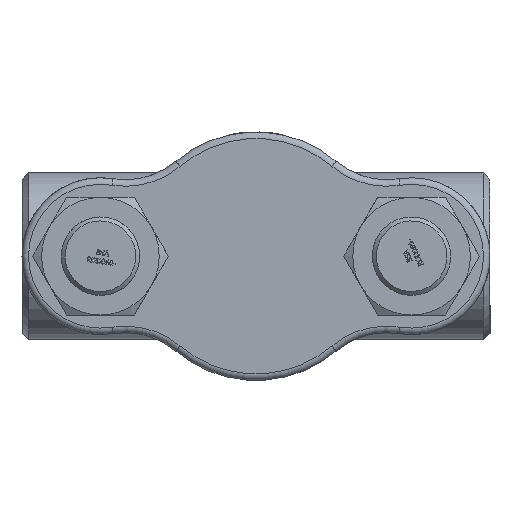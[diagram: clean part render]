
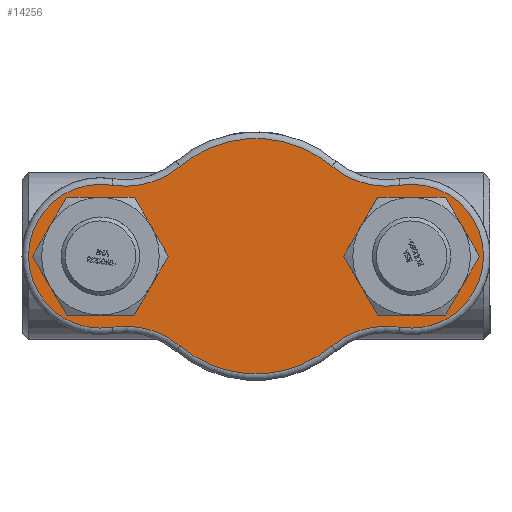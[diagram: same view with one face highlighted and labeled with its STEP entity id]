
A CAD part, front view. The second image highlights one B-rep face of the part: STEP entity #14256.
In plain terms, the highlighted planar face has unit normal (0, -1, 0) as drawn and (0, 0, -1) by its records, which use the part's own axes.
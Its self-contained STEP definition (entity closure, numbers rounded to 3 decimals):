
#3722=PLANE('',#15189);
#4073=FACE_BOUND('',#5016,.T.);
#4074=FACE_BOUND('',#5017,.T.);
#4171=FACE_OUTER_BOUND('',#5015,.T.);
#5015=EDGE_LOOP('',(#9811,#9812,#9813,#9814,#9815,#9816,#9817,#9818));
#5016=EDGE_LOOP('',(#9819));
#5017=EDGE_LOOP('',(#9820));
#5955=CIRCLE('',#15188,36.5);
#5956=CIRCLE('',#15190,55.);
#5957=CIRCLE('',#15191,65.);
#5958=CIRCLE('',#15192,90.);
#5959=CIRCLE('',#15193,65.);
#5960=CIRCLE('',#15194,55.);
#5961=CIRCLE('',#15195,65.);
#5962=CIRCLE('',#15196,90.);
#5963=CIRCLE('',#15197,65.);
#5964=CIRCLE('',#15198,36.5);
#6131=VERTEX_POINT('',#18322);
#6132=VERTEX_POINT('',#18325);
#6133=VERTEX_POINT('',#18326);
#6134=VERTEX_POINT('',#18328);
#6135=VERTEX_POINT('',#18330);
#6136=VERTEX_POINT('',#18332);
#6137=VERTEX_POINT('',#18334);
#6138=VERTEX_POINT('',#18336);
#6139=VERTEX_POINT('',#18338);
#6140=VERTEX_POINT('',#18341);
#7597=EDGE_CURVE('',#6131,#6131,#5955,.T.);
#7598=EDGE_CURVE('',#6132,#6133,#5956,.T.);
#7599=EDGE_CURVE('',#6134,#6132,#5957,.T.);
#7600=EDGE_CURVE('',#6135,#6134,#5958,.T.);
#7601=EDGE_CURVE('',#6136,#6135,#5959,.T.);
#7602=EDGE_CURVE('',#6137,#6136,#5960,.T.);
#7603=EDGE_CURVE('',#6138,#6137,#5961,.T.);
#7604=EDGE_CURVE('',#6139,#6138,#5962,.T.);
#7605=EDGE_CURVE('',#6133,#6139,#5963,.T.);
#7606=EDGE_CURVE('',#6140,#6140,#5964,.T.);
#9811=ORIENTED_EDGE('',*,*,#7598,.F.);
#9812=ORIENTED_EDGE('',*,*,#7599,.F.);
#9813=ORIENTED_EDGE('',*,*,#7600,.F.);
#9814=ORIENTED_EDGE('',*,*,#7601,.F.);
#9815=ORIENTED_EDGE('',*,*,#7602,.F.);
#9816=ORIENTED_EDGE('',*,*,#7603,.F.);
#9817=ORIENTED_EDGE('',*,*,#7604,.F.);
#9818=ORIENTED_EDGE('',*,*,#7605,.F.);
#9819=ORIENTED_EDGE('',*,*,#7606,.F.);
#9820=ORIENTED_EDGE('',*,*,#7597,.F.);
#14256=ADVANCED_FACE('',(#4171,#4073,#4074),#3722,.F.);
#15188=AXIS2_PLACEMENT_3D('',#18323,#15852,#15853);
#15189=AXIS2_PLACEMENT_3D('',#18324,#15854,#15855);
#15190=AXIS2_PLACEMENT_3D('',#18327,#15856,#15857);
#15191=AXIS2_PLACEMENT_3D('',#18329,#15858,#15859);
#15192=AXIS2_PLACEMENT_3D('',#18331,#15860,#15861);
#15193=AXIS2_PLACEMENT_3D('',#18333,#15862,#15863);
#15194=AXIS2_PLACEMENT_3D('',#18335,#15864,#15865);
#15195=AXIS2_PLACEMENT_3D('',#18337,#15866,#15867);
#15196=AXIS2_PLACEMENT_3D('',#18339,#15868,#15869);
#15197=AXIS2_PLACEMENT_3D('',#18340,#15870,#15871);
#15198=AXIS2_PLACEMENT_3D('',#18342,#15872,#15873);
#15852=DIRECTION('center_axis',(0.,0.,-1.));
#15853=DIRECTION('ref_axis',(1.,0.,0.));
#15854=DIRECTION('center_axis',(0.,0.,1.));
#15855=DIRECTION('ref_axis',(1.,0.,0.));
#15856=DIRECTION('center_axis',(0.,0.,1.));
#15857=DIRECTION('ref_axis',(-1.,0.,0.));
#15858=DIRECTION('center_axis',(0.,0.,-1.));
#15859=DIRECTION('ref_axis',(0.267,-0.964,0.));
#15860=DIRECTION('center_axis',(0.,0.,1.));
#15861=DIRECTION('ref_axis',(0.,1.,0.));
#15862=DIRECTION('center_axis',(0.,0.,-1.));
#15863=DIRECTION('ref_axis',(-0.267,-0.964,0.));
#15864=DIRECTION('center_axis',(0.,0.,1.));
#15865=DIRECTION('ref_axis',(1.,0.,0.));
#15866=DIRECTION('center_axis',(0.,0.,-1.));
#15867=DIRECTION('ref_axis',(-0.267,0.964,0.));
#15868=DIRECTION('center_axis',(0.,0.,1.));
#15869=DIRECTION('ref_axis',(0.,-1.,0.));
#15870=DIRECTION('center_axis',(0.,0.,-1.));
#15871=DIRECTION('ref_axis',(0.267,0.964,0.));
#15872=DIRECTION('center_axis',(0.,0.,-1.));
#15873=DIRECTION('ref_axis',(1.,0.,0.));
#18322=CARTESIAN_POINT('',(82.5,0.,0.));
#18323=CARTESIAN_POINT('Origin',(119.,0.,0.));
#18324=CARTESIAN_POINT('Origin',(0.,0.,0.));
#18325=CARTESIAN_POINT('',(-110.265,54.302,0.));
#18326=CARTESIAN_POINT('',(-110.265,-54.302,0.));
#18327=CARTESIAN_POINT('Origin',(-119.,0.,0.));
#18328=CARTESIAN_POINT('',(-58.03,68.793,0.));
#18329=CARTESIAN_POINT('Origin',(-99.941,118.477,0.));
#18330=CARTESIAN_POINT('',(58.03,68.793,0.));
#18331=CARTESIAN_POINT('Origin',(0.,0.,0.));
#18332=CARTESIAN_POINT('',(110.265,54.302,0.));
#18333=CARTESIAN_POINT('Origin',(99.941,118.477,0.));
#18334=CARTESIAN_POINT('',(110.265,-54.302,0.));
#18335=CARTESIAN_POINT('Origin',(119.,0.,0.));
#18336=CARTESIAN_POINT('',(58.03,-68.793,0.));
#18337=CARTESIAN_POINT('Origin',(99.941,-118.477,0.));
#18338=CARTESIAN_POINT('',(-58.03,-68.793,0.));
#18339=CARTESIAN_POINT('Origin',(0.,0.,0.));
#18340=CARTESIAN_POINT('Origin',(-99.941,-118.477,0.));
#18341=CARTESIAN_POINT('',(-155.5,0.,0.));
#18342=CARTESIAN_POINT('Origin',(-119.,0.,0.));
